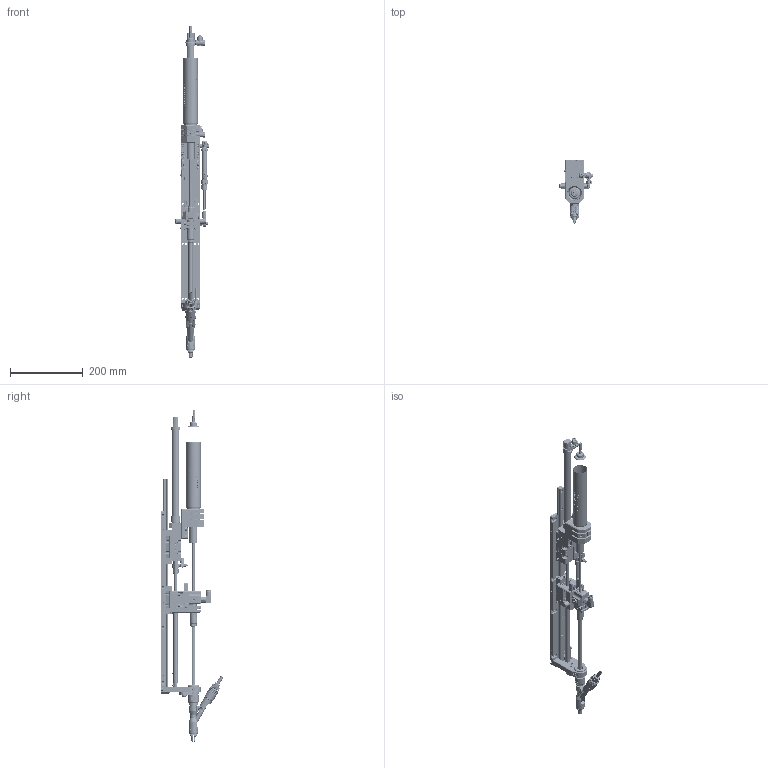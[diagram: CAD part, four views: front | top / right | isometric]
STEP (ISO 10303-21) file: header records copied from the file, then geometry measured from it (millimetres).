
FILE_DESCRIPTION(/* description */ ('© Copyright 2019 – Urheberrechtshinweis Diese CAD-Daten sind urheberrechtlich geschützt. Das Urheberrecht liegt, soweit nicht ausdrücklich anders gekennzeichnet, bei Stöger Automation GmbH. Bitte fragen Sie uns, falls Sie die CAD-Daten vervielfältigen oder','CAx-IF Rec.Pracs.---Representation and Presentation of Product Manufacturing Information (PMI)---4.0---2014-10-13'),/* implementation_level */ '2;1');
FILE_NAME(/* name */ 'H:\00_0 Arbeiten für Marketing\581020\MKT-SRV21-581020.stp',/* time_stamp */ '2020-09-22T11:47:10+02:00',/* author */ ('Stöger Automation GmbH'),/* organization */ ('Stöger Automation GmbH'),/* preprocessor_version */ 'ST-DEVELOPER v17',/* originating_system */ 'Autodesk Inventor 2018',/* authorisation */ '');
FILE_SCHEMA (('AP242_MANAGED_MODEL_BASED_3D_ENGINEERING_MIM_LF { 1 0 10303 442 1 1 4 }'));
Products named in the file (1): 581020
Bounding box: 91 x 172.2 x 909.72 mm (x, y, z)
Volume: 1161343.8 mm3; surface area: 479449.6 mm2
Topology: 12 solids, 87 shells, 5369 faces, 14691 edges, 9786 vertices
Faces by surface type: plane 2756, cylinder 1258, bspline 699, cone 494, torus 147, sphere 15
Full cylindrical faces by diameter (mm): 2 x4, 2.2 x2, 2.459 x5, 3 x9, 3.04 x3, 3.1 x2, 3.2 x3, 3.242 x12, 3.4 x10, 3.5 x4, 3.7 x1, 3.8 x2, 3.818 x16, 4 x13, 4.1 x4, 4.134 x46, 4.5 x10, 4.7 x1, 4.8 x1, 4.917 x16, 5 x16, 5.2 x24, 5.4 x1, 5.5 x13, 6 x30, 6.1 x2, 6.5 x1, 6.6 x5, 6.647 x4, 6.7 x1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
Entity records: 362913 total; most frequent: CARTESIAN_POINT 225564, ORIENTED_EDGE 29244, DIRECTION 25287, EDGE_CURVE 14622, VERTEX_POINT 9804, AXIS2_PLACEMENT_3D 8979, LINE 7329, VECTOR 7329
